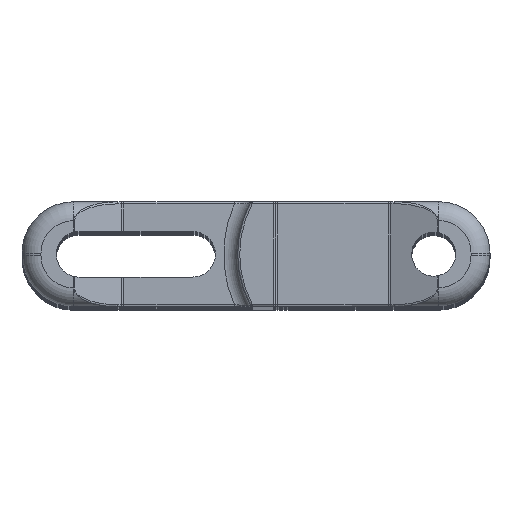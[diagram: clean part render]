
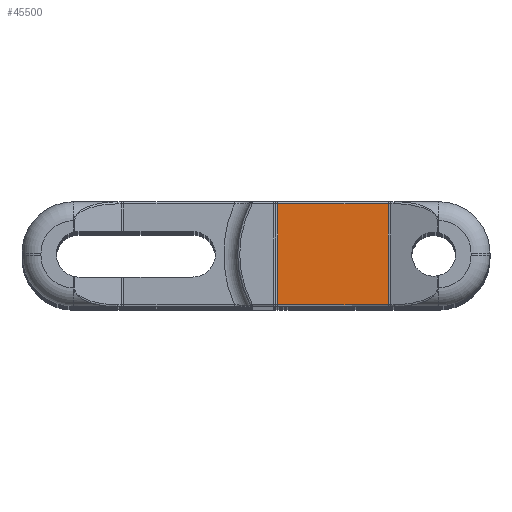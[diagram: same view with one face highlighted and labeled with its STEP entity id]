
A CAD part, top view. The second image highlights one B-rep face of the part: STEP entity #45500.
In plain terms, the highlighted planar face has unit normal (0, 0, 1).
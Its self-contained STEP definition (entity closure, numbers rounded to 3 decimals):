
#9699=DIRECTION('',(1.,0.,0.));
#9700=VECTOR('',#9699,15.768);
#9701=CARTESIAN_POINT('',(19.8,-7.2,
-9.2));
#9702=LINE('',#9701,#9700);
#10369=DIRECTION('',(-1.,0.,0.));
#10370=VECTOR('',#10369,15.768);
#10371=CARTESIAN_POINT('',(35.568,7.2,-9.2));
#10372=LINE('',#10371,#10370);
#10390=CARTESIAN_POINT('',(19.8,7.2,
-9.2));
#10414=CARTESIAN_POINT('',(19.8,-7.2,
-9.2));
#10466=DIRECTION('',(0.,1.,0.));
#10467=VECTOR('',#10466,14.4);
#10468=CARTESIAN_POINT('',(19.8,-7.2,
-9.2));
#10469=LINE('',#10468,#10467);
#10474=DIRECTION('',(0.,-1.,0.));
#10475=VECTOR('',#10474,14.4);
#10476=CARTESIAN_POINT('',(35.568,7.2,-9.2));
#10477=LINE('',#10476,#10475);
#26236=CARTESIAN_POINT('',(35.568,7.2,-9.2));
#26237=CARTESIAN_POINT('',(35.568,-7.2,-9.2));
#26238=VERTEX_POINT('',#26236);
#26239=VERTEX_POINT('',#26237);
#29015=VERTEX_POINT('',#10414);
#29018=VERTEX_POINT('',#10390);
#45488=CARTESIAN_POINT('',(-43.349,-7.5,-9.2));
#45489=DIRECTION('',(0.,0.,1.));
#45490=DIRECTION('',(1.,0.,0.));
#45491=AXIS2_PLACEMENT_3D('',#45488,#45489,#45490);
#45492=PLANE('',#45491);
#45493=ORIENTED_EDGE('',*,*,#45395,.T.);
#45494=ORIENTED_EDGE('',*,*,#45303,.F.);
#45496=ORIENTED_EDGE('',*,*,#45495,.T.);
#45497=ORIENTED_EDGE('',*,*,#44203,.F.);
#45498=EDGE_LOOP('',(#45493,#45494,#45496,#45497));
#45499=FACE_OUTER_BOUND('',#45498,.F.);
#44203=EDGE_CURVE('',#29015,#26239,#9702,.T.);
#45303=EDGE_CURVE('',#26238,#29018,#10372,.T.);
#45395=EDGE_CURVE('',#29015,#29018,#10469,.T.);
#45495=EDGE_CURVE('',#26238,#26239,#10477,.T.);
#45500=ADVANCED_FACE('',(#45499),#45492,.T.);
